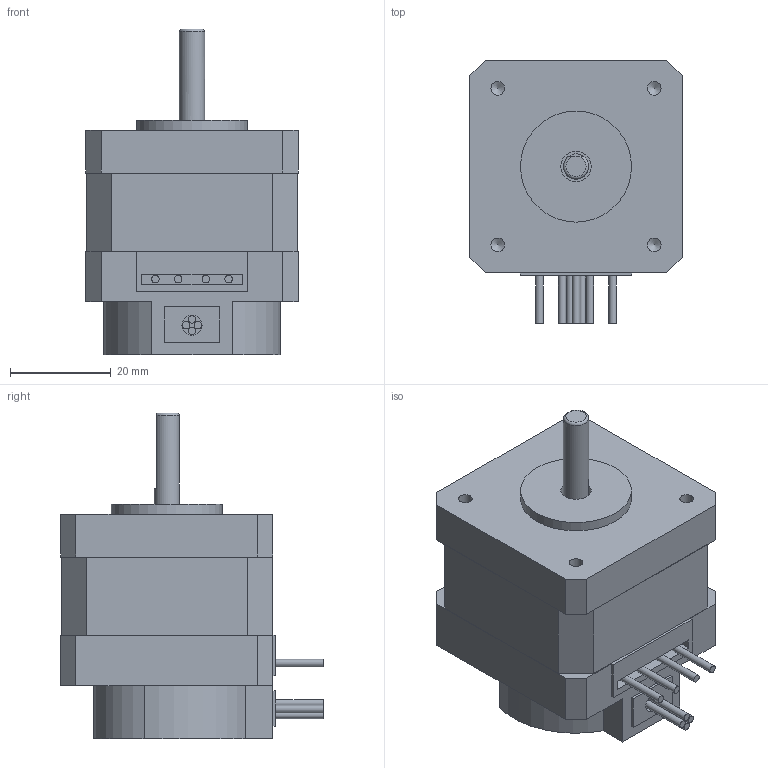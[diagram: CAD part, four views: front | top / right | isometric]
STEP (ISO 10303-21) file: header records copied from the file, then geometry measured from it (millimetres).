
FILE_DESCRIPTION(/* description */ (''),/* implementation_level */ '2;1');
FILE_NAME(/* name */ 'STP-43D1-Y17-00100.stp',/* time_stamp */ '2018-09-03T11:46:17+08:00',/* author */ (''),/* organization */ (''),/* preprocessor_version */ 'ST-DEVELOPER v11',/* originating_system */ 'SIEMENS UGS NX 6.0',/* authorisation */ '');
FILE_SCHEMA (('CONFIG_CONTROL_DESIGN'));
Length unit declared in the file: millimetre
Products named in the file (1): STP-43D1-Y17-00100
Bounding box: 42 x 52 x 64.5 mm (x, y, z)
Volume: 69238.7 mm3; surface area: 11519.5 mm2
Topology: 1 solids, 1 shells, 85 faces, 209 edges, 142 vertices
Faces by surface type: plane 61, cylinder 19, cone 4, torus 1
Full cylindrical faces by diameter (mm): 1.5 x8, 2.7 x4, 4 x1, 5 x1, 6 x1, 22 x1
Entity records: 2376 total; most frequent: CARTESIAN_POINT 418, DIRECTION 381, ORIENTED_EDGE 342, EDGE_CURVE 171, LINE 129, VECTOR 129, VERTEX_POINT 128, AXIS2_PLACEMENT_3D 126
